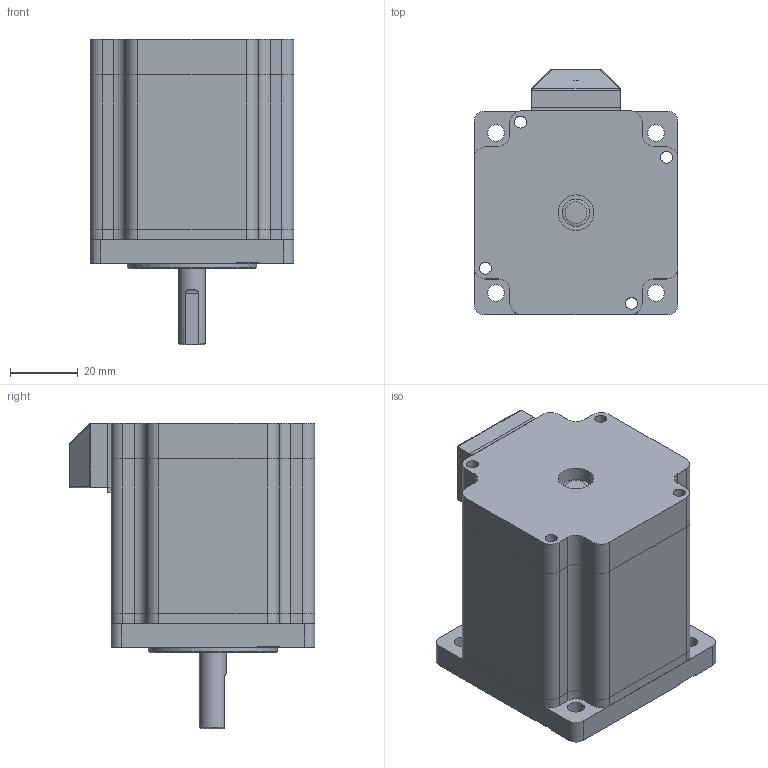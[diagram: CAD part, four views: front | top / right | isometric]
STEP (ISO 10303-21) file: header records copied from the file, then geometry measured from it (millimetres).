
FILE_DESCRIPTION( ('This file contains a STEP AP42 implementation' ,'as created by ZW3D STEP Interface translator.') ,'2;1' );
FILE_NAME( 'AM510A-60A0220-0000.stp' ,'24 724.1743 2', (''), ('ZWCAD Software Co.'), 'Version 1.0', 'ZW3D to STEP translator', '' );
FILE_SCHEMA(('AUTOMOTIVE_DESIGN { 1 0 10303 214 1 1 1 1 }'));
Length unit declared in the file: millimetre
Products named in the file (2): 0; 睽捶60(2.2N)
Bounding box: 60 x 72.3 x 90 mm (x, y, z)
Volume: 209955.3 mm3; surface area: 49810.3 mm2
Topology: 8 solids, 11 shells, 180 faces, 511 edges, 392 vertices
Faces by surface type: plane 88, cylinder 81, cone 7, sphere 4
Full cylindrical faces by diameter (mm): 3.5 x12, 5 x4, 8 x1, 10.5 x5, 15 x1, 38.1 x1
Entity records: 6083 total; most frequent: CARTESIAN_POINT 1059, DIRECTION 1040, ORIENTED_EDGE 884, EDGE_CURVE 469, AXIS2_PLACEMENT_3D 362, VECTOR 316, LINE 316, VERTEX_POINT 306
